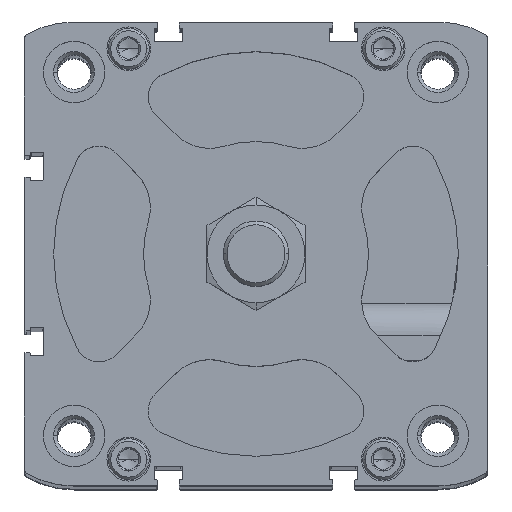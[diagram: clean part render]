
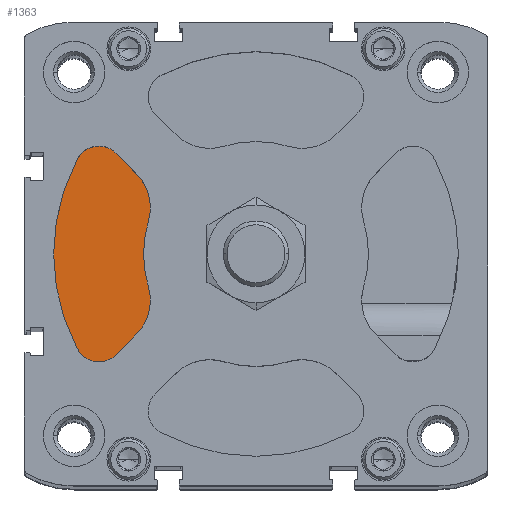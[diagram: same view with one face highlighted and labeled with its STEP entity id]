
A CAD part, top view. The second image highlights one B-rep face of the part: STEP entity #1363.
In plain terms, the highlighted planar face has unit normal (0, 0, 1).
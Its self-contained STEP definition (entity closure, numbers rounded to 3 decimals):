
#94 = DIRECTION ( 'NONE',  ( 0., 0., 1. ) ) ;
#102 = DIRECTION ( 'NONE',  ( 0., 1., 0. ) ) ;
#203 = EDGE_CURVE ( 'NONE', #10534, #14364, #21205, .T. ) ;
#225 = CARTESIAN_POINT ( 'NONE',  ( 0., 0., -18.8 ) ) ;
#366 = DIRECTION ( 'NONE',  ( 0., 1., 0. ) ) ;
#405 = EDGE_CURVE ( 'NONE', #5160, #15908, #19128, .T. ) ;
#437 = PLANE ( 'NONE',  #4587 ) ;
#549 = ORIENTED_EDGE ( 'NONE', *, *, #405, .T. ) ;
#1187 = VERTEX_POINT ( 'NONE', #2330 ) ;
#1227 = AXIS2_PLACEMENT_3D ( 'NONE', #19963, #19750, #102 ) ;
#1336 = VERTEX_POINT ( 'NONE', #3186 ) ;
#1363 = ADVANCED_FACE ( 'NONE', ( #16764 ), #437, .T. ) ;
#1638 = EDGE_LOOP ( 'NONE', ( #12747, #16462, #4338, #8638, #10207, #11594, #549, #17872, #11592 ) ) ;
#2179 = CIRCLE ( 'NONE', #8688, 12. ) ;
#2330 = CARTESIAN_POINT ( 'NONE',  ( -43.724, -23.205, -18.8 ) ) ;
#2835 = VECTOR ( 'NONE', #18306, 1000. ) ;
#3186 = CARTESIAN_POINT ( 'NONE',  ( -26.345, 7.885, -18.8 ) ) ;
#3336 = CARTESIAN_POINT ( 'NONE',  ( -37.842, 11.325, -18.8 ) ) ;
#3544 = CARTESIAN_POINT ( 'NONE',  ( -43.724, 23.205, -18.8 ) ) ;
#3837 = EDGE_CURVE ( 'NONE', #1187, #10534, #19295, .T. ) ;
#3885 = DIRECTION ( 'NONE',  ( 1., 0., 0. ) ) ;
#4180 = VERTEX_POINT ( 'NONE', #3544 ) ;
#4249 = CARTESIAN_POINT ( 'NONE',  ( -38.424, 26.393, -18.8 ) ) ;
#4338 = ORIENTED_EDGE ( 'NONE', *, *, #203, .T. ) ;
#4342 = EDGE_CURVE ( 'NONE', #4180, #1187, #4454, .T. ) ;
#4391 = DIRECTION ( 'NONE',  ( 0., 0., 1. ) ) ;
#4454 = CIRCLE ( 'NONE', #7186, 49.5 ) ;
#4587 = AXIS2_PLACEMENT_3D ( 'NONE', #225, #16552, #3885 ) ;
#5160 = VERTEX_POINT ( 'NONE', #12295 ) ;
#5290 = VERTEX_POINT ( 'NONE', #4249 ) ;
#6404 = EDGE_CURVE ( 'NONE', #14364, #9108, #2179, .T. ) ;
#7186 = AXIS2_PLACEMENT_3D ( 'NONE', #8901, #7612, #7396 ) ;
#7308 = EDGE_CURVE ( 'NONE', #1336, #5160, #14328, .T. ) ;
#7396 = DIRECTION ( 'NONE',  ( 0., 1., 0. ) ) ;
#7601 = DIRECTION ( 'NONE',  ( 0., 1., 0. ) ) ;
#7612 = DIRECTION ( 'NONE',  ( 0., 0., 1. ) ) ;
#7669 = DIRECTION ( 'NONE',  ( 0., 1., 0. ) ) ;
#8242 = DIRECTION ( 'NONE',  ( 0., 1., 0. ) ) ;
#8636 = DIRECTION ( 'NONE',  ( -0.707, 0.707, 0. ) ) ;
#8638 = ORIENTED_EDGE ( 'NONE', *, *, #6404, .T. ) ;
#8688 = AXIS2_PLACEMENT_3D ( 'NONE', #17263, #4391, #7601 ) ;
#8901 = CARTESIAN_POINT ( 'NONE',  ( 0., 0., -18.8 ) ) ;
#9108 = VERTEX_POINT ( 'NONE', #9503 ) ;
#9276 = AXIS2_PLACEMENT_3D ( 'NONE', #14112, #9294, #7669 ) ;
#9294 = DIRECTION ( 'NONE',  ( 0., 0., 1. ) ) ;
#9482 = VECTOR ( 'NONE', #8636, 1000. ) ;
#9503 = CARTESIAN_POINT ( 'NONE',  ( -26.345, -7.885, -18.8 ) ) ;
#9806 = CARTESIAN_POINT ( 'NONE',  ( -34.181, -24.635, -18.8 ) ) ;
#10053 = AXIS2_PLACEMENT_3D ( 'NONE', #20008, #11855, #366 ) ;
#10207 = ORIENTED_EDGE ( 'NONE', *, *, #15043, .F. ) ;
#10229 = AXIS2_PLACEMENT_3D ( 'NONE', #3336, #94, #14592 ) ;
#10484 = CIRCLE ( 'NONE', #1227, 6. ) ;
#10534 = VERTEX_POINT ( 'NONE', #9806 ) ;
#10986 = CARTESIAN_POINT ( 'NONE',  ( -29.356, 19.81, -18.8 ) ) ;
#11272 = DIRECTION ( 'NONE',  ( 0., 0., 1. ) ) ;
#11592 = ORIENTED_EDGE ( 'NONE', *, *, #19724, .T. ) ;
#11594 = ORIENTED_EDGE ( 'NONE', *, *, #7308, .T. ) ;
#11855 = DIRECTION ( 'NONE',  ( 0., 0., 1. ) ) ;
#12196 = CIRCLE ( 'NONE', #14922, 27.5 ) ;
#12295 = CARTESIAN_POINT ( 'NONE',  ( -29.356, 19.81, -18.8 ) ) ;
#12747 = ORIENTED_EDGE ( 'NONE', *, *, #4342, .T. ) ;
#14061 = CIRCLE ( 'NONE', #9276, 6. ) ;
#14112 = CARTESIAN_POINT ( 'NONE',  ( -38.424, 20.393, -18.8 ) ) ;
#14328 = CIRCLE ( 'NONE', #10229, 12. ) ;
#14364 = VERTEX_POINT ( 'NONE', #16815 ) ;
#14577 = CARTESIAN_POINT ( 'NONE',  ( 0., 0., -18.8 ) ) ;
#14592 = DIRECTION ( 'NONE',  ( 0., 1., 0. ) ) ;
#14922 = AXIS2_PLACEMENT_3D ( 'NONE', #14577, #11272, #8242 ) ;
#15043 = EDGE_CURVE ( 'NONE', #1336, #9108, #12196, .T. ) ;
#15654 = CARTESIAN_POINT ( 'NONE',  ( -34.181, 24.635, -18.8 ) ) ;
#15908 = VERTEX_POINT ( 'NONE', #15654 ) ;
#16462 = ORIENTED_EDGE ( 'NONE', *, *, #3837, .T. ) ;
#16489 = CARTESIAN_POINT ( 'NONE',  ( -34.181, -24.635, -18.8 ) ) ;
#16552 = DIRECTION ( 'NONE',  ( 0., 0., 1. ) ) ;
#16764 = FACE_OUTER_BOUND ( 'NONE', #1638, .T. ) ;
#16815 = CARTESIAN_POINT ( 'NONE',  ( -29.356, -19.81, -18.8 ) ) ;
#17263 = CARTESIAN_POINT ( 'NONE',  ( -37.842, -11.325, -18.8 ) ) ;
#17337 = EDGE_CURVE ( 'NONE', #15908, #5290, #10484, .T. ) ;
#17872 = ORIENTED_EDGE ( 'NONE', *, *, #17337, .T. ) ;
#18306 = DIRECTION ( 'NONE',  ( 0.707, 0.707, 0. ) ) ;
#19128 = LINE ( 'NONE', #10986, #9482 ) ;
#19295 = CIRCLE ( 'NONE', #10053, 6. ) ;
#19724 = EDGE_CURVE ( 'NONE', #5290, #4180, #14061, .T. ) ;
#19750 = DIRECTION ( 'NONE',  ( 0., 0., 1. ) ) ;
#19963 = CARTESIAN_POINT ( 'NONE',  ( -38.424, 20.393, -18.8 ) ) ;
#20008 = CARTESIAN_POINT ( 'NONE',  ( -38.424, -20.393, -18.8 ) ) ;
#21205 = LINE ( 'NONE', #16489, #2835 ) ;
